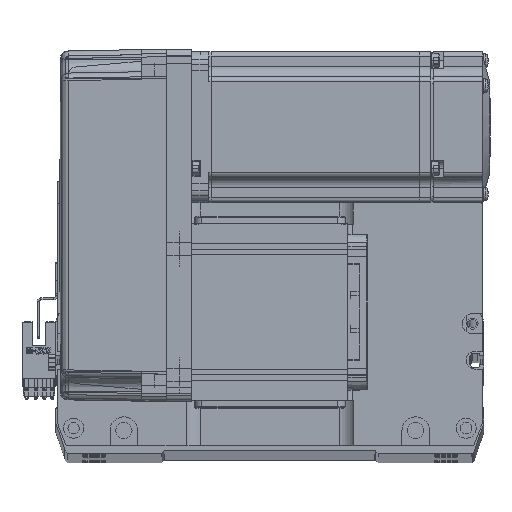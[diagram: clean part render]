
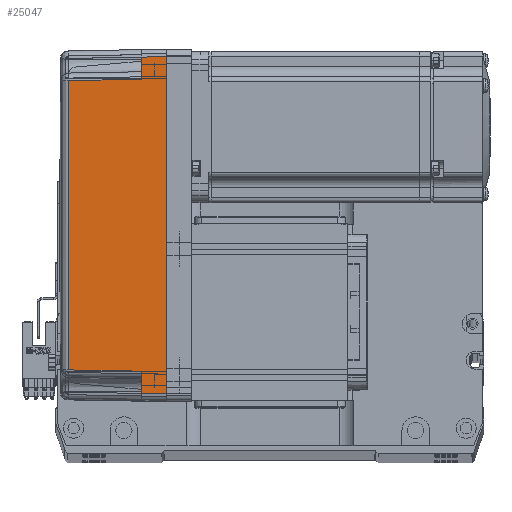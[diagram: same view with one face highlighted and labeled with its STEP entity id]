
A CAD part, top view. The second image highlights one B-rep face of the part: STEP entity #25047.
In plain terms, the highlighted planar face has unit normal (-0.018, 0, 1) as drawn and (0, 1, 0.017) by its records, which use the part's own axes.
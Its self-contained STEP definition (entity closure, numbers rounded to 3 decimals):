
#38 = CARTESIAN_POINT ( 'NONE',  ( 67.001, 36.001, -0.052 ) ) ;
#565 = CARTESIAN_POINT ( 'NONE',  ( -57.495, 35.32, 38.985 ) ) ;
#1471 = VERTEX_POINT ( 'NONE', #67288 ) ;
#1483 = DIRECTION ( 'NONE',  ( 0.017, 0.017, -1. ) ) ;
#4293 = CARTESIAN_POINT ( 'NONE',  ( 67., 36., 0. ) ) ;
#4352 = VECTOR ( 'NONE', #1483, 1000. ) ;
#5040 = CARTESIAN_POINT ( 'NONE',  ( 57.495, 35.32, 38.985 ) ) ;
#5364 = CARTESIAN_POINT ( 'NONE',  ( 57.495, 35.32, 38.985 ) ) ;
#6129 = CARTESIAN_POINT ( 'NONE',  ( 70., 35.825, 10. ) ) ;
#8546 = CARTESIAN_POINT ( 'NONE',  ( 0., 36., 0. ) ) ;
#10685 = B_SPLINE_CURVE_WITH_KNOTS ( 'NONE', 3,
 ( #565, #20843, #36663, #5364 ),
 .UNSPECIFIED., .F., .F.,
 ( 4, 4 ),
 ( 0., 1. ),
 .UNSPECIFIED. ) ;
#11529 = ORIENTED_EDGE ( 'NONE', *, *, #56283, .T. ) ;
#12923 = DIRECTION ( 'NONE',  ( 0.017, -0.017, 1. ) ) ;
#19350 = VECTOR ( 'NONE', #66151, 1000. ) ;
#19456 = CARTESIAN_POINT ( 'NONE',  ( -67., 36., 0. ) ) ;
#19917 = VECTOR ( 'NONE', #57154, 1000. ) ;
#20020 = VERTEX_POINT ( 'NONE', #19456 ) ;
#20406 = LINE ( 'NONE', #39019, #21260 ) ;
#20843 = CARTESIAN_POINT ( 'NONE',  ( -19.165, 35.316, 39.181 ) ) ;
#21260 = VECTOR ( 'NONE', #12923, 1000. ) ;
#21454 = VERTEX_POINT ( 'NONE', #5040 ) ;
#23810 = CARTESIAN_POINT ( 'NONE',  ( -57.495, 35.32, 38.985 ) ) ;
#24701 = ORIENTED_EDGE ( 'NONE', *, *, #45600, .T. ) ;
#24817 = LINE ( 'NONE', #6129, #60879 ) ;
#25047 = ADVANCED_FACE ( 'NONE', ( #66906 ), #62493, .T. ) ;
#26069 = CARTESIAN_POINT ( 'NONE',  ( 70., 36., 0. ) ) ;
#26885 = LINE ( 'NONE', #29723, #35152 ) ;
#27060 = CARTESIAN_POINT ( 'NONE',  ( -58., 35.825, 10. ) ) ;
#28329 = CARTESIAN_POINT ( 'NONE',  ( -67., 36., 0. ) ) ;
#29004 = LINE ( 'NONE', #28329, #55187 ) ;
#29397 = ORIENTED_EDGE ( 'NONE', *, *, #33480, .F. ) ;
#29723 = CARTESIAN_POINT ( 'NONE',  ( 70., 35.825, 10. ) ) ;
#30624 = DIRECTION ( 'NONE',  ( 1., 0., 0. ) ) ;
#31581 = DIRECTION ( 'NONE',  ( 0., -0.017, 1. ) ) ;
#33480 = EDGE_CURVE ( 'NONE', #51909, #53627, #46180, .T. ) ;
#35152 = VECTOR ( 'NONE', #30624, 1000. ) ;
#36499 = VERTEX_POINT ( 'NONE', #27060 ) ;
#36663 = CARTESIAN_POINT ( 'NONE',  ( 19.165, 35.316, 39.181 ) ) ;
#37604 = EDGE_CURVE ( 'NONE', #36499, #43685, #20406, .T. ) ;
#39019 = CARTESIAN_POINT ( 'NONE',  ( -58., 35.825, 10. ) ) ;
#41961 = VERTEX_POINT ( 'NONE', #47933 ) ;
#43618 = EDGE_CURVE ( 'NONE', #20020, #51909, #58669, .T. ) ;
#43685 = VERTEX_POINT ( 'NONE', #23810 ) ;
#43765 = CARTESIAN_POINT ( 'NONE',  ( 57.495, 35.32, 38.985 ) ) ;
#44374 = ORIENTED_EDGE ( 'NONE', *, *, #37604, .T. ) ;
#44704 = EDGE_CURVE ( 'NONE', #20020, #41961, #29004, .T. ) ;
#44820 = ORIENTED_EDGE ( 'NONE', *, *, #47997, .T. ) ;
#45392 = EDGE_LOOP ( 'NONE', ( #66559, #11529, #44374, #61731, #24701, #44820, #29397, #55799 ) ) ;
#45600 = EDGE_CURVE ( 'NONE', #21454, #1471, #64074, .T. ) ;
#46180 = LINE ( 'NONE', #38, #19917 ) ;
#47127 = DIRECTION ( 'NONE',  ( 0., 1., 0.017 ) ) ;
#47908 = DIRECTION ( 'NONE',  ( 1., 0., 0. ) ) ;
#47933 = CARTESIAN_POINT ( 'NONE',  ( -66.826, 35.825, 10. ) ) ;
#47997 = EDGE_CURVE ( 'NONE', #1471, #53627, #26885, .T. ) ;
#51909 = VERTEX_POINT ( 'NONE', #4293 ) ;
#53627 = VERTEX_POINT ( 'NONE', #63030 ) ;
#53916 = DIRECTION ( 'NONE',  ( 0.017, -0.017, 1. ) ) ;
#55187 = VECTOR ( 'NONE', #53916, 1000. ) ;
#55799 = ORIENTED_EDGE ( 'NONE', *, *, #43618, .F. ) ;
#56283 = EDGE_CURVE ( 'NONE', #41961, #36499, #24817, .T. ) ;
#57154 = DIRECTION ( 'NONE',  ( -0.017, -0.017, 1. ) ) ;
#58669 = LINE ( 'NONE', #8546, #19350 ) ;
#60879 = VECTOR ( 'NONE', #47908, 1000. ) ;
#61731 = ORIENTED_EDGE ( 'NONE', *, *, #62050, .T. ) ;
#62050 = EDGE_CURVE ( 'NONE', #43685, #21454, #10685, .T. ) ;
#62493 = PLANE ( 'NONE',  #66486 ) ;
#63030 = CARTESIAN_POINT ( 'NONE',  ( 66.826, 35.825, 10. ) ) ;
#64074 = LINE ( 'NONE', #43765, #4352 ) ;
#66151 = DIRECTION ( 'NONE',  ( 1., 0., 0. ) ) ;
#66486 = AXIS2_PLACEMENT_3D ( 'NONE', #26069, #47127, #31581 ) ;
#66559 = ORIENTED_EDGE ( 'NONE', *, *, #44704, .T. ) ;
#66906 = FACE_OUTER_BOUND ( 'NONE', #45392, .T. ) ;
#67288 = CARTESIAN_POINT ( 'NONE',  ( 58., 35.825, 10. ) ) ;
